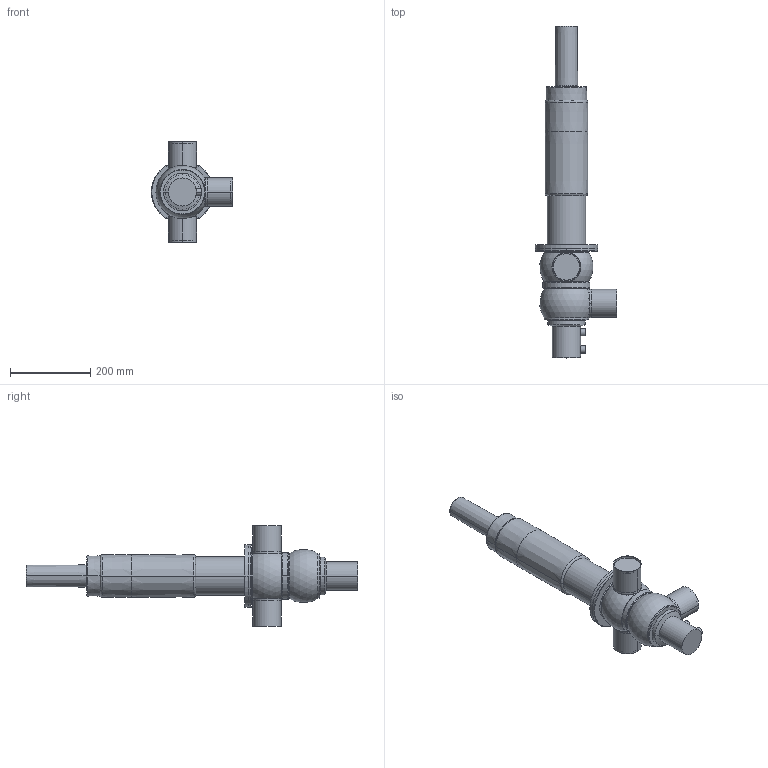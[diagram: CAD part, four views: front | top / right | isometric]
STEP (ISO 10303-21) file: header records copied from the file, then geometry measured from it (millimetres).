
FILE_DESCRIPTION(('Creo Elements/Direct Modeling STEP Export'),'2;1');
FILE_NAME('DA42-65_VSM.stp','2019-11-26T11:45:42',(''),(''),'Creo Elements/Direct Modeling STEP processor for AP214 (Solid Model)','Creo Elements/Direct Modeling 19.0F 14-Feb-2017 (C) Parametric Technology GmbH','');
FILE_SCHEMA(('AUTOMOTIVE_DESIGN { 1 0 10303 214 1 1 1 1 }'));
Length unit declared in the file: millimetre
Products named in the file (5): D4_Prox._holder.; actuator_DA4-100_yoke; drain_pipe-62; housing_DA42-65; DA42-65_VSM
Assembly tree (4 placements, depth 2):
  DA42-65_VSM
    housing_DA42-65
    drain_pipe-62
    actuator_DA4-100_yoke
    D4_Prox._holder.
Bounding box: 202.5 x 827.35 x 250 mm (x, y, z)
Volume: 7170248.9 mm3; surface area: 415353.5 mm2
Topology: 4 solids, 4 shells, 125 faces, 263 edges, 159 vertices
Faces by surface type: cylinder 44, torus 36, plane 26, cone 16, sphere 3
Entity records: 4372 total; most frequent: CARTESIAN_POINT 1744, DIRECTION 536, ORIENTED_EDGE 526, EDGE_CURVE 263, AXIS2_PLACEMENT_3D 238, VERTEX_POINT 159, EDGE_LOOP 138, FACE_OUTER_BOUND 125
